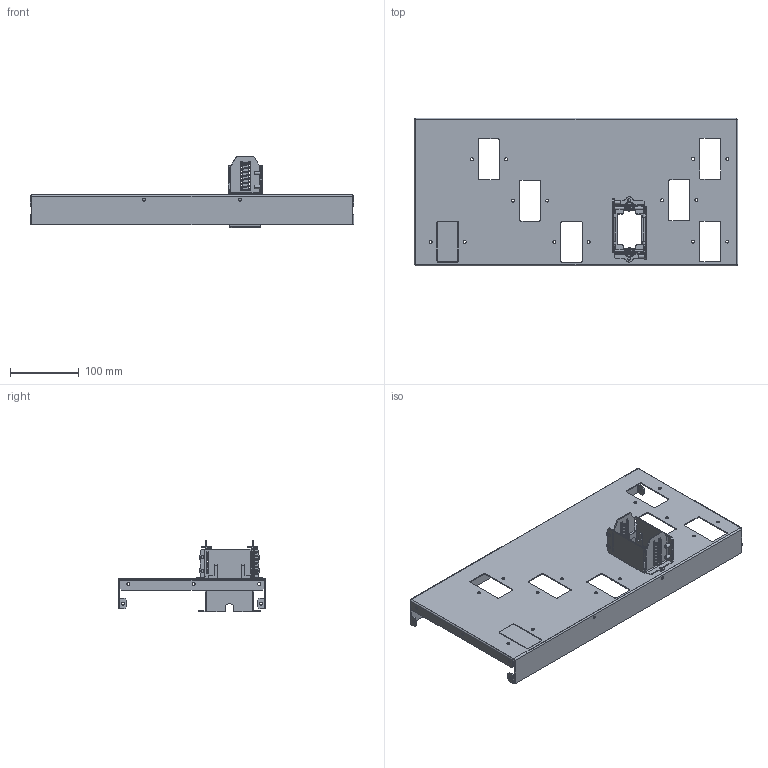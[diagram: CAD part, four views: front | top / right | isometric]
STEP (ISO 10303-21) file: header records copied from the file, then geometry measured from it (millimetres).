
FILE_DESCRIPTION(('CAx-IF Rec.Pracs.---Model Styling and Organization---1.2---2011-12-15','CAx-IF Rec.Pracs.---Geometric and Assembly Validation Properties---4.1---2014-06-16','CAx-IF Rec.Pracs.---PMI Polyline Presentation---2.0---2013-05-24'),'2;1');
FILE_NAME('R5M2W5M1BR66.stp','2021-05-05T12:29:20+03:00',(''),(''),'STEP Interface 4.4 by CT CoreTechnologie','3D_Evolution4.4 by CT CoreTechnologie','');
FILE_SCHEMA(('AUTOMOTIVE_DESIGN { 1 0 10303 214 1 1 1 1 }'));
Length unit declared in the file: millimetre
Products named in the file (8): R5M2W5M1BR66; RB.1567.00.00.0_-00; RB.1506.00.00.0_-05; RB.1765.00.00.0 ÑÁ; RB.1570.00.00.0; RB.1569.00.00.1_-00; RB.1571.00.00.0_In prestressed condition - 40 mm; M5x8-DIN7500C_stright
Assembly tree (13 placements, depth 3):
  R5M2W5M1BR66
    RB.1567.00.00.0_-00
    RB.1506.00.00.0_-05
    RB.1765.00.00.0 ÑÁ
      RB.1570.00.00.0  x2
      RB.1569.00.00.1_-00  x2
      RB.1571.00.00.0_In prestressed condition - 40 mm  x2
      M5x8-DIN7500C_stright  x4
Bounding box: 470 x 215 x 103.8 mm (x, y, z)
Surface area: 331982.4 mm2 (no closed solid volume)
Topology: 0 solids, 21 shells, 678 faces, 1799 edges, 1163 vertices
Faces by surface type: plane 442, cylinder 208, bspline 28
Entity records: 17336 total; most frequent: CARTESIAN_POINT 4248, ORIENTED_EDGE 2618, DIRECTION 2613, EDGE_CURVE 1309, VECTOR 953, LINE 953, VERTEX_POINT 845, AXIS2_PLACEMENT_3D 830
